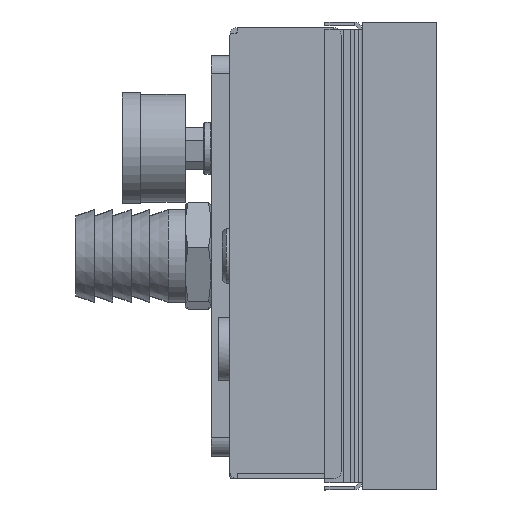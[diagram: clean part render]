
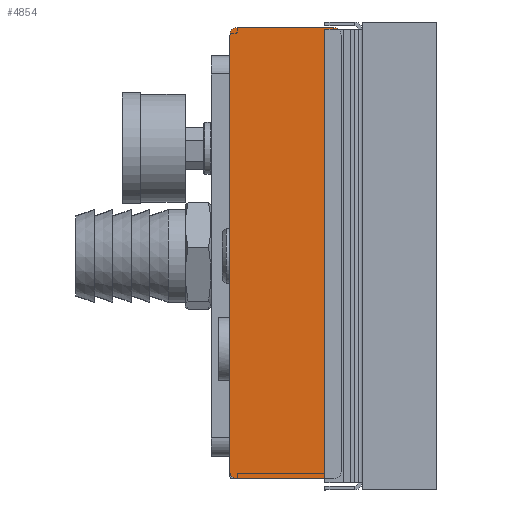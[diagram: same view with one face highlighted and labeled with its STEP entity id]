
A CAD part, left-side view. The second image highlights one B-rep face of the part: STEP entity #4854.
In plain terms, the highlighted planar face has unit normal (-1, 0, 0).
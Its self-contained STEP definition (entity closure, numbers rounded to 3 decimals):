
#49 = CARTESIAN_POINT ( 'NONE',  ( -699.453, -13., 61.5 ) ) ;
#116 = DIRECTION ( 'NONE',  ( 0., 0., -1. ) ) ;
#189 = CIRCLE ( 'NONE', #13648, 2. ) ;
#214 = CARTESIAN_POINT ( 'NONE',  ( -699.453, -13., -58. ) ) ;
#338 = ORIENTED_EDGE ( 'NONE', *, *, #9516, .T. ) ;
#567 = CARTESIAN_POINT ( 'NONE',  ( -699.453, 13., 59.5 ) ) ;
#695 = ORIENTED_EDGE ( 'NONE', *, *, #7626, .T. ) ;
#787 = CARTESIAN_POINT ( 'NONE',  ( -699.453, -15., -58. ) ) ;
#922 = DIRECTION ( 'NONE',  ( 0., 1., 0. ) ) ;
#929 = VECTOR ( 'NONE', #922, 1000. ) ;
#1457 = CARTESIAN_POINT ( 'NONE',  ( -699.453, 15., 59.5 ) ) ;
#1758 = DIRECTION ( 'NONE',  ( -1., 0., 0. ) ) ;
#2149 = LINE ( 'NONE', #8016, #6679 ) ;
#2216 = ORIENTED_EDGE ( 'NONE', *, *, #13511, .T. ) ;
#2353 = VERTEX_POINT ( 'NONE', #15278 ) ;
#2886 = VERTEX_POINT ( 'NONE', #4241 ) ;
#3108 = DIRECTION ( 'NONE',  ( -1., 0., 0. ) ) ;
#3132 = EDGE_CURVE ( 'NONE', #9945, #6688, #12413, .T. ) ;
#3493 = EDGE_CURVE ( 'NONE', #2353, #2886, #15360, .T. ) ;
#3523 = DIRECTION ( 'NONE',  ( 0., 0., -1. ) ) ;
#3976 = AXIS2_PLACEMENT_3D ( 'NONE', #8568, #7318, #116 ) ;
#4081 = VERTEX_POINT ( 'NONE', #787 ) ;
#4221 = VERTEX_POINT ( 'NONE', #14190 ) ;
#4241 = CARTESIAN_POINT ( 'NONE',  ( -699.453, -13., -60. ) ) ;
#4727 = CARTESIAN_POINT ( 'NONE',  ( -699.453, 13., -58. ) ) ;
#4854 = ADVANCED_FACE ( 'NONE', ( #7056 ), #9790, .F. ) ;
#4909 = CARTESIAN_POINT ( 'NONE',  ( -699.453, 15., -60. ) ) ;
#5230 = EDGE_LOOP ( 'NONE', ( #5303, #2216, #12801, #338, #11268, #695, #12417, #14664 ) ) ;
#5303 = ORIENTED_EDGE ( 'NONE', *, *, #13334, .T. ) ;
#5400 = EDGE_CURVE ( 'NONE', #4081, #4221, #2149, .T. ) ;
#5721 = DIRECTION ( 'NONE',  ( 0., 0., -1. ) ) ;
#6206 = CARTESIAN_POINT ( 'NONE',  ( -699.453, 13., 61.5 ) ) ;
#6679 = VECTOR ( 'NONE', #14417, 1000. ) ;
#6688 = VERTEX_POINT ( 'NONE', #12340 ) ;
#6691 = VERTEX_POINT ( 'NONE', #49 ) ;
#6718 = AXIS2_PLACEMENT_3D ( 'NONE', #4727, #12207, #3523 ) ;
#6758 = DIRECTION ( 'NONE',  ( 0., -1., 0. ) ) ;
#7056 = FACE_OUTER_BOUND ( 'NONE', #5230, .T. ) ;
#7186 = CARTESIAN_POINT ( 'NONE',  ( -699.453, -15., -60. ) ) ;
#7318 = DIRECTION ( 'NONE',  ( 1., 0., 0. ) ) ;
#7427 = DIRECTION ( 'NONE',  ( -1., 0., 0. ) ) ;
#7626 = EDGE_CURVE ( 'NONE', #2886, #4081, #9869, .T. ) ;
#7639 = VERTEX_POINT ( 'NONE', #6206 ) ;
#8016 = CARTESIAN_POINT ( 'NONE',  ( -699.453, -15., -60. ) ) ;
#8168 = CARTESIAN_POINT ( 'NONE',  ( -699.453, -15., 61.5 ) ) ;
#8568 = CARTESIAN_POINT ( 'NONE',  ( -699.453, 15., -60. ) ) ;
#9039 = DIRECTION ( 'NONE',  ( 0., 0., -1. ) ) ;
#9048 = AXIS2_PLACEMENT_3D ( 'NONE', #214, #7427, #15007 ) ;
#9516 = EDGE_CURVE ( 'NONE', #6688, #2353, #11566, .T. ) ;
#9790 = PLANE ( 'NONE',  #3976 ) ;
#9869 = CIRCLE ( 'NONE', #9048, 2. ) ;
#9945 = VERTEX_POINT ( 'NONE', #1457 ) ;
#11268 = ORIENTED_EDGE ( 'NONE', *, *, #3493, .T. ) ;
#11566 = CIRCLE ( 'NONE', #6718, 2. ) ;
#11759 = DIRECTION ( 'NONE',  ( 0., 0., -1. ) ) ;
#12080 = CIRCLE ( 'NONE', #13536, 2. ) ;
#12207 = DIRECTION ( 'NONE',  ( -1., 0., 0. ) ) ;
#12340 = CARTESIAN_POINT ( 'NONE',  ( -699.453, 15., -58. ) ) ;
#12413 = LINE ( 'NONE', #4909, #14378 ) ;
#12417 = ORIENTED_EDGE ( 'NONE', *, *, #5400, .T. ) ;
#12801 = ORIENTED_EDGE ( 'NONE', *, *, #3132, .T. ) ;
#12925 = VECTOR ( 'NONE', #6758, 1000. ) ;
#13334 = EDGE_CURVE ( 'NONE', #6691, #7639, #13670, .T. ) ;
#13417 = EDGE_CURVE ( 'NONE', #4221, #6691, #189, .T. ) ;
#13511 = EDGE_CURVE ( 'NONE', #7639, #9945, #12080, .T. ) ;
#13536 = AXIS2_PLACEMENT_3D ( 'NONE', #567, #1758, #9039 ) ;
#13648 = AXIS2_PLACEMENT_3D ( 'NONE', #14288, #3108, #11759 ) ;
#13670 = LINE ( 'NONE', #8168, #929 ) ;
#14190 = CARTESIAN_POINT ( 'NONE',  ( -699.453, -15., 59.5 ) ) ;
#14288 = CARTESIAN_POINT ( 'NONE',  ( -699.453, -13., 59.5 ) ) ;
#14378 = VECTOR ( 'NONE', #5721, 1000. ) ;
#14417 = DIRECTION ( 'NONE',  ( 0., 0., 1. ) ) ;
#14664 = ORIENTED_EDGE ( 'NONE', *, *, #13417, .T. ) ;
#15007 = DIRECTION ( 'NONE',  ( 0., 0., -1. ) ) ;
#15278 = CARTESIAN_POINT ( 'NONE',  ( -699.453, 13., -60. ) ) ;
#15360 = LINE ( 'NONE', #7186, #12925 ) ;
